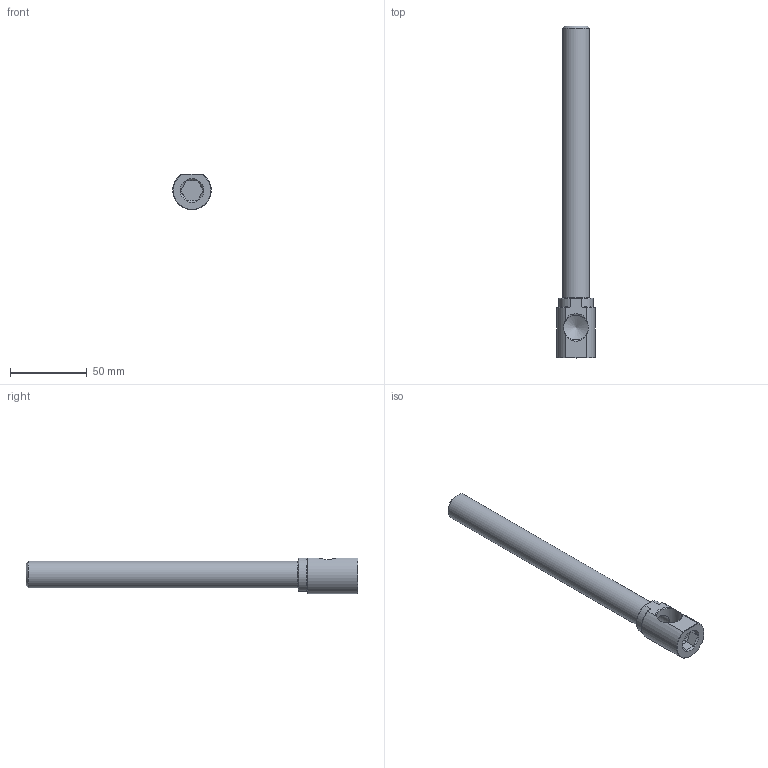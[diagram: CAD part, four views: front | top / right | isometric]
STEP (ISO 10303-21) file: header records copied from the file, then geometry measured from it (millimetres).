
FILE_DESCRIPTION(/* description */ (''),/* implementation_level */ '2;1');
FILE_NAME(/* name */ 'C:/Users/drich/Desktop/EKL38 X 8.5 v2.step',/* time_stamp */ '2019-11-18T14:41:58-06:00',/* author */ (''),/* organization */ (''),/* preprocessor_version */ 'ST-DEVELOPER v18',/* originating_system */ 'Autodesk Translation Framework v8.12.0.6',/* authorisation */ '');
FILE_SCHEMA (('AUTOMOTIVE_DESIGN { 1 0 10303 214 3 1 1 }'));
Length unit declared in the file: inch
Products named in the file (2): EKL38 X 8.5; EKL38 X 8-1/2
Assembly tree (1 placements, depth 2):
  EKL38 X 8.5
    EKL38 X 8-1/2
Bounding box: 25.01 x 215.9 x 23.03 mm (x, y, z)
Volume: 33440.8 mm3; surface area: 21603.8 mm2
Topology: 1 solids, 1 shells, 43 faces, 116 edges, 76 vertices
Faces by surface type: plane 21, cone 11, cylinder 11
Full cylindrical faces by diameter (mm): 11.887 x1, 16.231 x1, 17.328 x1
Entity records: 1463 total; most frequent: CARTESIAN_POINT 345, ORIENTED_EDGE 230, DIRECTION 218, EDGE_CURVE 115, AXIS2_PLACEMENT_3D 81, VERTEX_POINT 76, LINE 56, VECTOR 56
